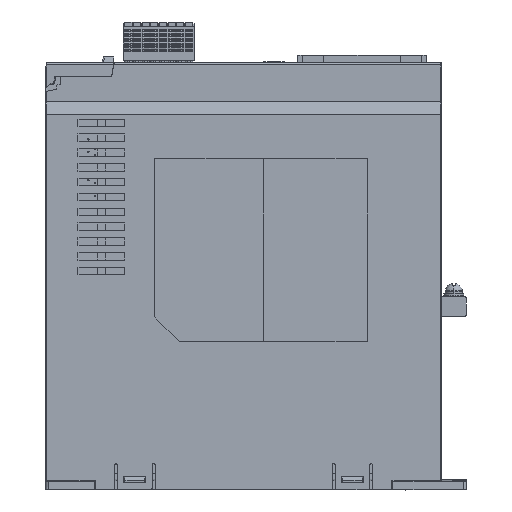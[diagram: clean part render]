
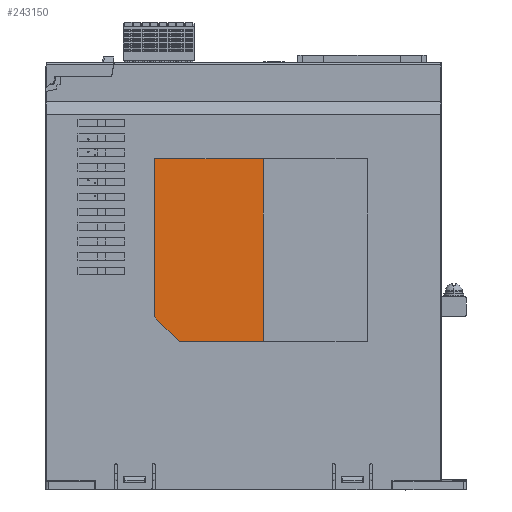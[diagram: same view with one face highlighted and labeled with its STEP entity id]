
A CAD part, left-side view. The second image highlights one B-rep face of the part: STEP entity #243150.
In plain terms, the highlighted planar face has unit normal (-1, 0, 0).
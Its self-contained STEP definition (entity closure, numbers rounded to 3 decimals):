
#91730=DIRECTION('',(0.,1.,0.));
#91731=VECTOR('',#91730,44.);
#91732=CARTESIAN_POINT('',(-25.2,-8.,134.));
#91733=LINE('',#91732,#91731);
#91734=DIRECTION('',(0.,0.,1.));
#91735=VECTOR('',#91734,74.);
#91736=CARTESIAN_POINT('',(-25.2,-8.,60.));
#91737=LINE('',#91736,#91735);
#91750=DIRECTION('',(0.,0.707,0.707));
#91751=VECTOR('',#91750,14.142);
#91752=CARTESIAN_POINT('',(-25.2,26.,60.));
#91753=LINE('',#91752,#91751);
#91758=DIRECTION('',(0.,-1.,0.));
#91759=VECTOR('',#91758,34.);
#91760=CARTESIAN_POINT('',(-25.2,26.,60.));
#91761=LINE('',#91760,#91759);
#91770=DIRECTION('',(0.,0.,-1.));
#91771=VECTOR('',#91770,64.);
#91772=CARTESIAN_POINT('',(-25.2,36.,134.));
#91773=LINE('',#91772,#91771);
#117969=CARTESIAN_POINT('',(-25.2,-8.,134.));
#117970=VERTEX_POINT('',#117969);
#117971=CARTESIAN_POINT('',(-25.2,36.,134.));
#117972=VERTEX_POINT('',#117971);
#117973=CARTESIAN_POINT('',(-25.2,-8.,60.));
#117974=VERTEX_POINT('',#117973);
#117979=CARTESIAN_POINT('',(-25.2,26.,60.));
#117980=VERTEX_POINT('',#117979);
#117981=CARTESIAN_POINT('',(-25.2,36.,70.));
#117982=VERTEX_POINT('',#117981);
#243135=CARTESIAN_POINT('',(-25.2,0.,0.));
#243136=DIRECTION('',(-1.,0.,0.));
#243137=DIRECTION('',(0.,-1.,0.));
#243138=AXIS2_PLACEMENT_3D('',#243135,#243136,#243137);
#243139=PLANE('',#243138);
#243140=ORIENTED_EDGE('',*,*,#243121,.F.);
#243142=ORIENTED_EDGE('',*,*,#243141,.F.);
#243144=ORIENTED_EDGE('',*,*,#243143,.T.);
#243146=ORIENTED_EDGE('',*,*,#243145,.F.);
#243147=ORIENTED_EDGE('',*,*,#243108,.F.);
#243148=EDGE_LOOP('',(#243140,#243142,#243144,#243146,#243147));
#243149=FACE_OUTER_BOUND('',#243148,.F.);
#243150=ADVANCED_FACE('',(#243149),#243139,.T.);
#243108=EDGE_CURVE('',#117970,#117972,#91733,.T.);
#243121=EDGE_CURVE('',#117974,#117970,#91737,.T.);
#243141=EDGE_CURVE('',#117980,#117974,#91761,.T.);
#243143=EDGE_CURVE('',#117980,#117982,#91753,.T.);
#243145=EDGE_CURVE('',#117972,#117982,#91773,.T.);
